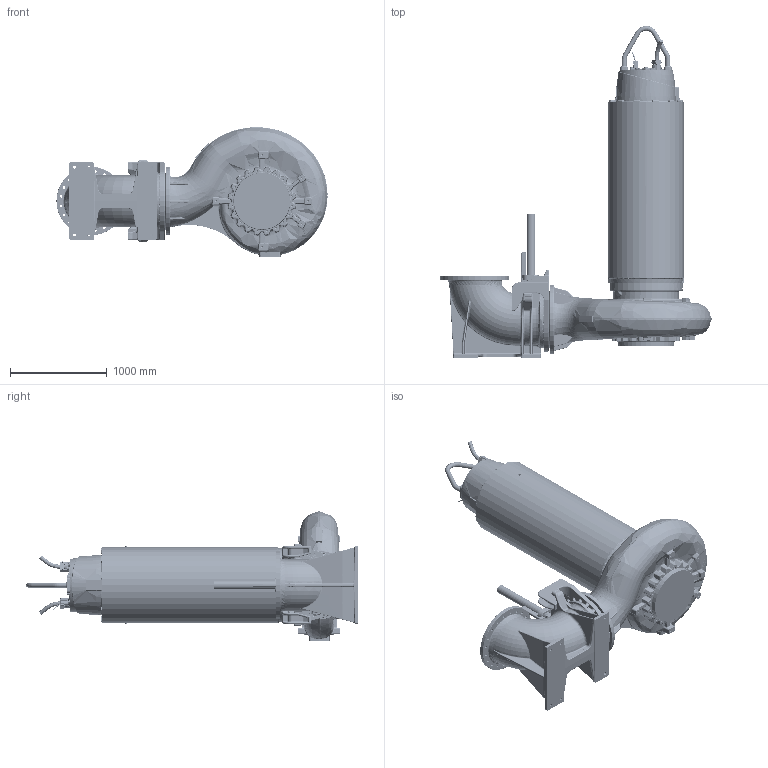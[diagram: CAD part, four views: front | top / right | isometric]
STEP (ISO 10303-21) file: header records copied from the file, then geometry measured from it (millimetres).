
FILE_DESCRIPTION (( 'STEP AP214' ), '1' );
FILE_NAME ('PE7_XFP500U-CH3_WET_F.STEP', '2017-04-03T07:26:27', ( '' ), ( '' ), 'SwSTEP 2.0', 'SolidWorks 2017', '' );
FILE_SCHEMA (( 'AUTOMOTIVE_DESIGN' ));
Length unit declared in the file: millimetre
Products named in the file (1): PE7_XFP500U-CH3_WET_F
Bounding box: 2801.98 x 3430.35 x 1338.41 mm (x, y, z)
Volume: 1939384416.1 mm3; surface area: 19405271.7 mm2
Topology: 4 solids, 24 shells, 6160 faces, 14938 edges, 8698 vertices
Faces by surface type: bspline 1725, cylinder 1579, plane 1418, torus 772, cone 469, sphere 197
Entity records: 374147 total; most frequent: CARTESIAN_POINT 176376, ORIENTED_EDGE 29274, DIRECTION 24693, EDGE_CURVE 14637, AXIS2_PLACEMENT_3D 9966, VERTEX_POINT 8693, EDGE_LOOP 6542, UNCERTAINTY_MEASURE_WITH_UNIT 6166
